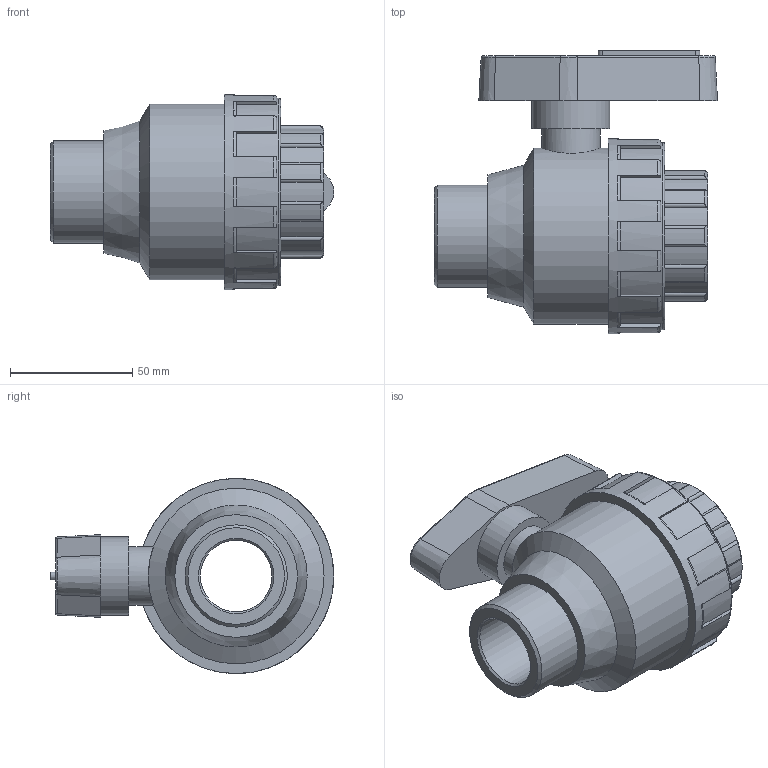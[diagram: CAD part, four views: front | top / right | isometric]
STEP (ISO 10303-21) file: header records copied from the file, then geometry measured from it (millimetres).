
FILE_DESCRIPTION(/* description */ ('PLASSON ONE NUT VALVE MALE-FEMALE ADAPTOR 1.1/4" PVC'),/* implementation_level */ '2;1');
FILE_NAME(/* name */ 'C:\Dropbox\KIMPROJECTS-Inventor\99-16-3568-Processing\PVC Catalog 2017\113610\11361013.ipt.stp',/* time_stamp */ '2017-12-07T16:12:23+02:00',/* author */ ('KIM'),/* organization */ (''),/* preprocessor_version */ 'ST-DEVELOPER v15.6',/* originating_system */ 'Autodesk Inventor 2015',/* authorisation */ '');
FILE_SCHEMA (('AUTOMOTIVE_DESIGN { 1 0 10303 214 3 1 1 }'));
Length unit declared in the file: millimetre
Products named in the file (1): 11361013
Bounding box: 116.14 x 116.22 x 80 mm (x, y, z)
Volume: 315757.8 mm3; surface area: 50770.2 mm2
Topology: 1 solids, 1 shells, 168 faces, 442 edges, 284 vertices
Faces by surface type: plane 65, cylinder 55, torus 29, cone 19
Full cylindrical faces by diameter (mm): 24 x1, 29.337 x1, 31.162 x1, 32 x1, 38.952 x1, 41.91 x1, 72 x1, 76.8 x1, 80 x1
Entity records: 5658 total; most frequent: CARTESIAN_POINT 1552, DIRECTION 876, ORIENTED_EDGE 840, EDGE_CURVE 420, AXIS2_PLACEMENT_3D 356, VERTEX_POINT 278, EDGE_LOOP 194, CIRCLE 187
